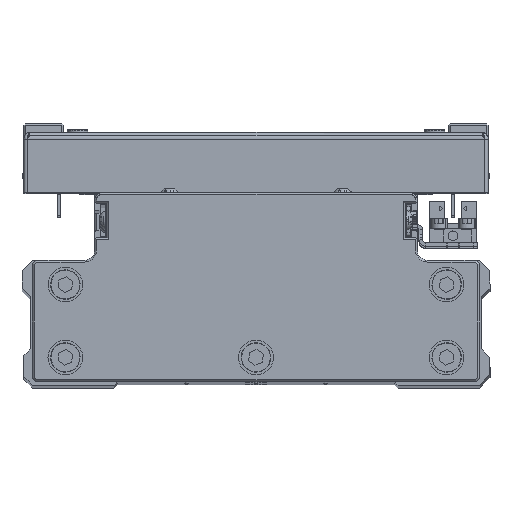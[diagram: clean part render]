
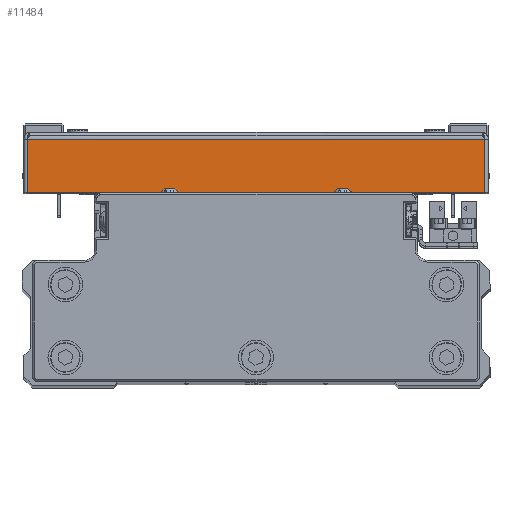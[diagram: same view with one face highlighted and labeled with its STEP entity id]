
A CAD part, top view. The second image highlights one B-rep face of the part: STEP entity #11484.
In plain terms, the highlighted planar face has unit normal (0, 0, 1) as drawn and (1, 0, 0) by its records, which use the part's own axes.
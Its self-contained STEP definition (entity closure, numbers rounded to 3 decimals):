
#1311 = ORIENTED_EDGE ( 'NONE', *, *, #16411, .F. ) ;
#1892 = EDGE_CURVE ( 'NONE', #14321, #26443, #39415, .T. ) ;
#2124 = CARTESIAN_POINT ( 'NONE',  ( 75., 1., 67. ) ) ;
#4321 = LINE ( 'NONE', #17638, #10345 ) ;
#4641 = EDGE_CURVE ( 'NONE', #7425, #15638, #4321, .T. ) ;
#6498 = VECTOR ( 'NONE', #42005, 1000. ) ;
#7425 = VERTEX_POINT ( 'NONE', #24844 ) ;
#7834 = ORIENTED_EDGE ( 'NONE', *, *, #1892, .T. ) ;
#9528 = CARTESIAN_POINT ( 'NONE',  ( 75., 0., -65.929 ) ) ;
#9990 = CARTESIAN_POINT ( 'NONE',  ( 75., 0., 0. ) ) ;
#10345 = VECTOR ( 'NONE', #30932, 1000. ) ;
#11484 = ADVANCED_FACE ( 'NONE', ( #26582 ), #39888, .F. ) ;
#14321 = VERTEX_POINT ( 'NONE', #34088 ) ;
#14373 = EDGE_LOOP ( 'NONE', ( #1311, #7834, #18125, #35391 ) ) ;
#15386 = LINE ( 'NONE', #28694, #6498 ) ;
#15453 = DIRECTION ( 'NONE',  ( 0., 0., 1. ) ) ;
#15638 = VERTEX_POINT ( 'NONE', #28900 ) ;
#16411 = EDGE_CURVE ( 'NONE', #14321, #7425, #32019, .T. ) ;
#17638 = CARTESIAN_POINT ( 'NONE',  ( 75., 0., 65.929 ) ) ;
#18125 = ORIENTED_EDGE ( 'NONE', *, *, #25307, .T. ) ;
#21728 = CARTESIAN_POINT ( 'NONE',  ( 75., 16.5, -65.929 ) ) ;
#22841 = DIRECTION ( 'NONE',  ( 0., 1., 0. ) ) ;
#23300 = DIRECTION ( 'NONE',  ( -1., 0., 0. ) ) ;
#24844 = CARTESIAN_POINT ( 'NONE',  ( 75., 1., 65.929 ) ) ;
#25307 = EDGE_CURVE ( 'NONE', #26443, #15638, #15386, .T. ) ;
#26443 = VERTEX_POINT ( 'NONE', #21728 ) ;
#26582 = FACE_OUTER_BOUND ( 'NONE', #14373, .T. ) ;
#28694 = CARTESIAN_POINT ( 'NONE',  ( 75., 16.5, 0. ) ) ;
#28900 = CARTESIAN_POINT ( 'NONE',  ( 75., 16.5, 65.929 ) ) ;
#30932 = DIRECTION ( 'NONE',  ( 0., 1., 0. ) ) ;
#32019 = LINE ( 'NONE', #2124, #42297 ) ;
#34088 = CARTESIAN_POINT ( 'NONE',  ( 75., 1., -65.929 ) ) ;
#35391 = ORIENTED_EDGE ( 'NONE', *, *, #4641, .F. ) ;
#36226 = VECTOR ( 'NONE', #22841, 1000. ) ;
#36605 = DIRECTION ( 'NONE',  ( 0., -1., 0. ) ) ;
#39415 = LINE ( 'NONE', #9528, #36226 ) ;
#39888 = PLANE ( 'NONE',  #40279 ) ;
#40279 = AXIS2_PLACEMENT_3D ( 'NONE', #9990, #23300, #36605 ) ;
#42005 = DIRECTION ( 'NONE',  ( 0., 0., 1. ) ) ;
#42297 = VECTOR ( 'NONE', #15453, 1000. ) ;
